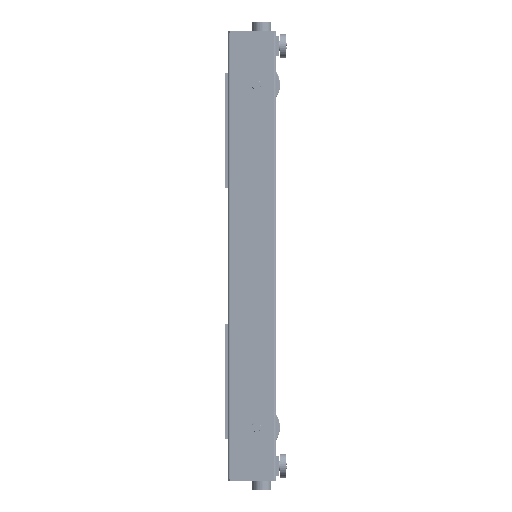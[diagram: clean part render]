
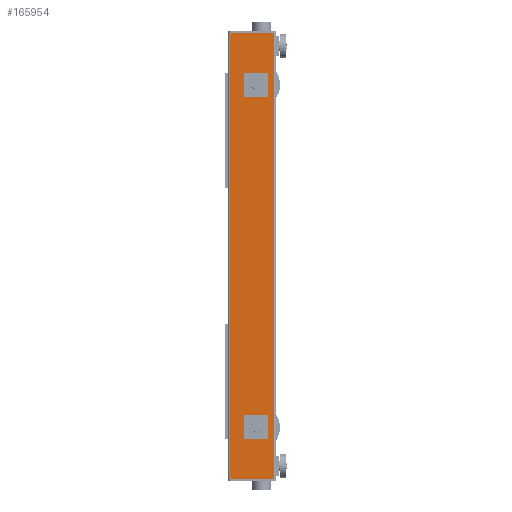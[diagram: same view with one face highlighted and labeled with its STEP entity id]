
A CAD part, left-side view. The second image highlights one B-rep face of the part: STEP entity #165954.
In plain terms, the highlighted planar face has unit normal (-1, 0, 0).
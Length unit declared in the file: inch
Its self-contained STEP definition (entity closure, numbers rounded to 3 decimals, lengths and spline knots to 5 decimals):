
#295 = ORIENTED_EDGE ( 'NONE', *, *, #84370, .T. ) ;
#12661 = CIRCLE ( 'NONE', #169007, 0.984 ) ;
#23413 = EDGE_CURVE ( 'NONE', #57544, #98660, #147240, .T. ) ;
#26088 = CARTESIAN_POINT ( 'NONE',  ( 0., 4.109, 36.48425 ) ) ;
#31635 = LINE ( 'NONE', #43906, #55989 ) ;
#31680 = EDGE_CURVE ( 'NONE', #98660, #44440, #145221, .T. ) ;
#36394 = ORIENTED_EDGE ( 'NONE', *, *, #132239, .F. ) ;
#38453 = DIRECTION ( 'NONE',  ( 0., 0., -1. ) ) ;
#40905 = DIRECTION ( 'NONE',  ( 0., 0., -1. ) ) ;
#41417 = CARTESIAN_POINT ( 'NONE',  ( 0., 0.5, -46.21875 ) ) ;
#43106 = ORIENTED_EDGE ( 'NONE', *, *, #31680, .T. ) ;
#43906 = CARTESIAN_POINT ( 'NONE',  ( 0., 0.5, 46.21875 ) ) ;
#44440 = VERTEX_POINT ( 'NONE', #41417 ) ;
#47557 = AXIS2_PLACEMENT_3D ( 'NONE', #107261, #160669, #40905 ) ;
#47701 = AXIS2_PLACEMENT_3D ( 'NONE', #58077, #151630, #162206 ) ;
#48982 = EDGE_LOOP ( 'NONE', ( #90871, #295 ) ) ;
#49221 = CARTESIAN_POINT ( 'NONE',  ( 0., 4.109, -35.49975 ) ) ;
#52331 = EDGE_LOOP ( 'NONE', ( #79682, #145585 ) ) ;
#53260 = VERTEX_POINT ( 'NONE', #67339 ) ;
#55120 = DIRECTION ( 'NONE',  ( 0., -1., 0. ) ) ;
#55989 = VECTOR ( 'NONE', #86598, 39.37008 ) ;
#57544 = VERTEX_POINT ( 'NONE', #105597 ) ;
#58077 = CARTESIAN_POINT ( 'NONE',  ( 0., 0.5, 46.21875 ) ) ;
#58781 = DIRECTION ( 'NONE',  ( 1., 0., 0. ) ) ;
#60246 = CIRCLE ( 'NONE', #102387, 0.984 ) ;
#65535 = CARTESIAN_POINT ( 'NONE',  ( 0., 4.109, -35.49975 ) ) ;
#67339 = CARTESIAN_POINT ( 'NONE',  ( 0., 4.109, 34.51625 ) ) ;
#67750 = VERTEX_POINT ( 'NONE', #153160 ) ;
#68650 = FACE_BOUND ( 'NONE', #52331, .T. ) ;
#69933 = EDGE_LOOP ( 'NONE', ( #43106, #136230, #36394, #162973 ) ) ;
#76299 = DIRECTION ( 'NONE',  ( 0., 0., -1. ) ) ;
#79682 = ORIENTED_EDGE ( 'NONE', *, *, #120967, .T. ) ;
#80153 = DIRECTION ( 'NONE',  ( 0., 0., -1. ) ) ;
#84370 = EDGE_CURVE ( 'NONE', #168414, #53260, #116623, .T. ) ;
#84522 = VECTOR ( 'NONE', #134974, 39.37008 ) ;
#86598 = DIRECTION ( 'NONE',  ( 0., -1., 0. ) ) ;
#90871 = ORIENTED_EDGE ( 'NONE', *, *, #142510, .T. ) ;
#94965 = LINE ( 'NONE', #133486, #152113 ) ;
#98660 = VERTEX_POINT ( 'NONE', #118221 ) ;
#98697 = VECTOR ( 'NONE', #55120, 39.37008 ) ;
#99873 = DIRECTION ( 'NONE',  ( 1., 0., 0. ) ) ;
#102387 = AXIS2_PLACEMENT_3D ( 'NONE', #49221, #99873, #76299 ) ;
#105488 = AXIS2_PLACEMENT_3D ( 'NONE', #112083, #58781, #164624 ) ;
#105597 = CARTESIAN_POINT ( 'NONE',  ( 0., 9.5, 46.21875 ) ) ;
#107261 = CARTESIAN_POINT ( 'NONE',  ( 0., 4.109, 35.50025 ) ) ;
#112083 = CARTESIAN_POINT ( 'NONE',  ( 0., 4.109, 35.50025 ) ) ;
#112221 = PLANE ( 'NONE',  #47701 ) ;
#116623 = CIRCLE ( 'NONE', #105488, 0.984 ) ;
#118221 = CARTESIAN_POINT ( 'NONE',  ( 0., 9.5, -46.21875 ) ) ;
#119935 = EDGE_CURVE ( 'NONE', #155599, #44440, #94965, .T. ) ;
#120967 = EDGE_CURVE ( 'NONE', #158859, #67750, #12661, .T. ) ;
#125342 = FACE_OUTER_BOUND ( 'NONE', #69933, .T. ) ;
#132239 = EDGE_CURVE ( 'NONE', #57544, #155599, #31635, .T. ) ;
#132299 = CARTESIAN_POINT ( 'NONE',  ( 0., 0.5, 46.21875 ) ) ;
#133486 = CARTESIAN_POINT ( 'NONE',  ( 0., 0.5, 46.21875 ) ) ;
#134974 = DIRECTION ( 'NONE',  ( 0., 0., -1. ) ) ;
#136230 = ORIENTED_EDGE ( 'NONE', *, *, #119935, .F. ) ;
#136910 = CIRCLE ( 'NONE', #47557, 0.984 ) ;
#142510 = EDGE_CURVE ( 'NONE', #53260, #168414, #136910, .T. ) ;
#144363 = CARTESIAN_POINT ( 'NONE',  ( 0., 0.5, -46.21875 ) ) ;
#145221 = LINE ( 'NONE', #144363, #98697 ) ;
#145585 = ORIENTED_EDGE ( 'NONE', *, *, #161321, .T. ) ;
#147240 = LINE ( 'NONE', #170925, #84522 ) ;
#151630 = DIRECTION ( 'NONE',  ( 1., 0., 0. ) ) ;
#152113 = VECTOR ( 'NONE', #80153, 39.37008 ) ;
#152484 = FACE_BOUND ( 'NONE', #48982, .T. ) ;
#153160 = CARTESIAN_POINT ( 'NONE',  ( 0., 4.109, -34.51575 ) ) ;
#155599 = VERTEX_POINT ( 'NONE', #132299 ) ;
#158212 = DIRECTION ( 'NONE',  ( 1., 0., 0. ) ) ;
#158859 = VERTEX_POINT ( 'NONE', #165635 ) ;
#160669 = DIRECTION ( 'NONE',  ( 1., 0., 0. ) ) ;
#161321 = EDGE_CURVE ( 'NONE', #67750, #158859, #60246, .T. ) ;
#162206 = DIRECTION ( 'NONE',  ( 0., 0., -1. ) ) ;
#162973 = ORIENTED_EDGE ( 'NONE', *, *, #23413, .T. ) ;
#164624 = DIRECTION ( 'NONE',  ( 0., 0., -1. ) ) ;
#165635 = CARTESIAN_POINT ( 'NONE',  ( 0., 4.109, -36.48375 ) ) ;
#165954 = ADVANCED_FACE ( 'NONE', ( #68650, #152484, #125342 ), #112221, .F. ) ;
#168414 = VERTEX_POINT ( 'NONE', #26088 ) ;
#169007 = AXIS2_PLACEMENT_3D ( 'NONE', #65535, #158212, #38453 ) ;
#170925 = CARTESIAN_POINT ( 'NONE',  ( 0., 9.5, 46.21875 ) ) ;
